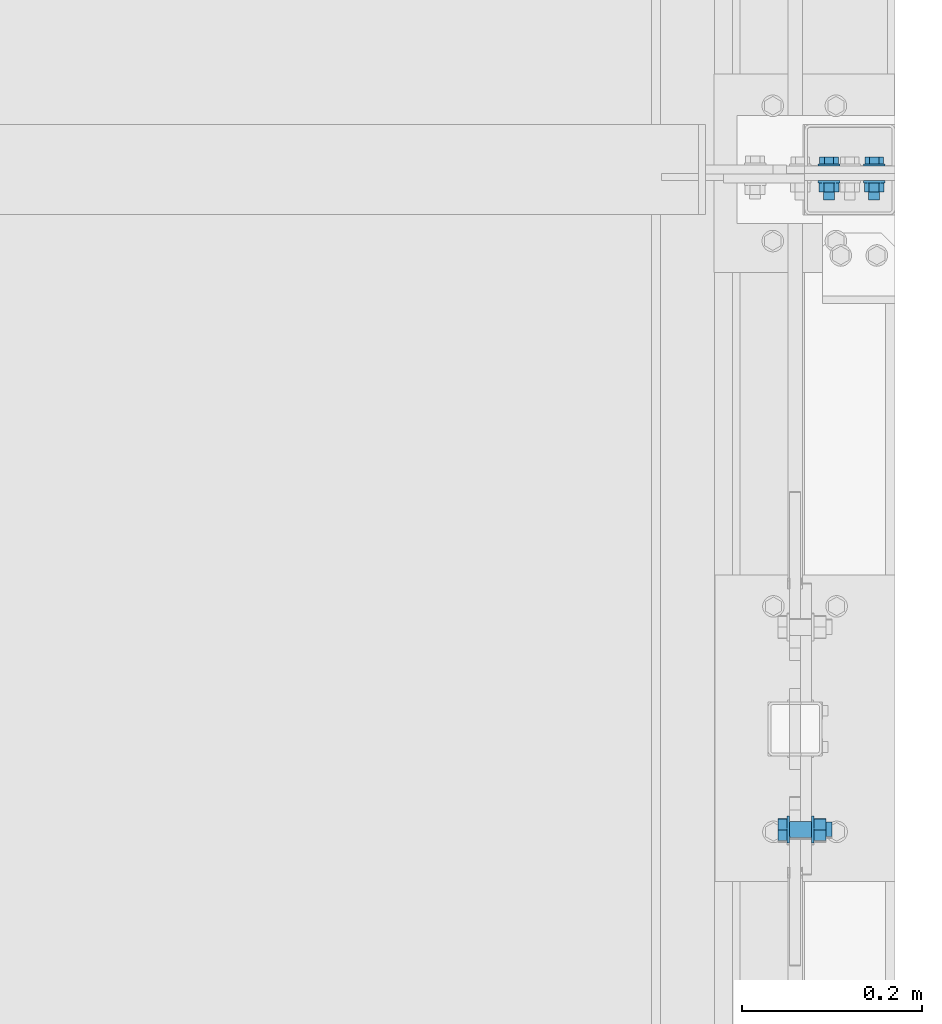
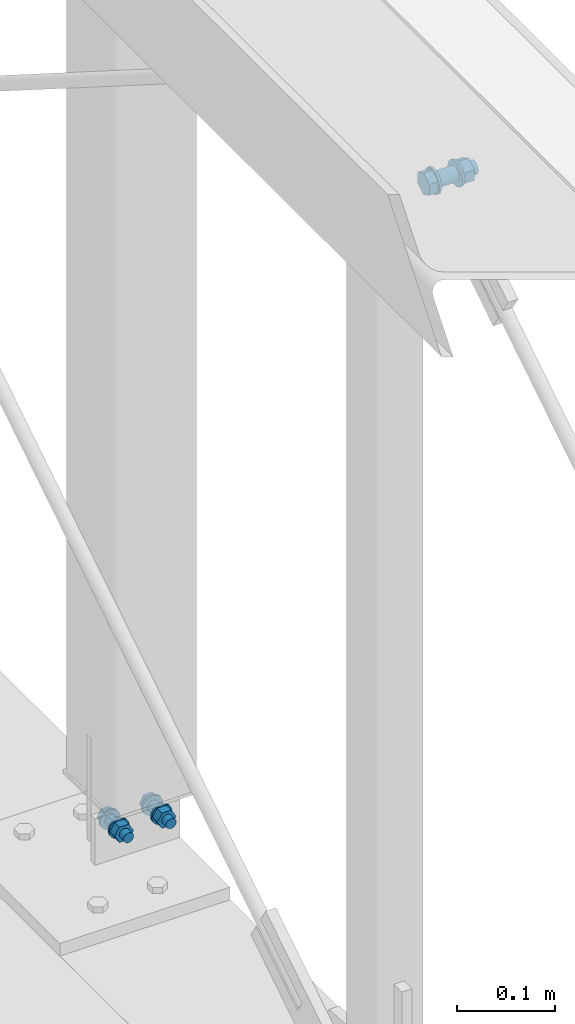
# One storey, part 258 of 271: 2 mechanical fasteners, 2 elements without a shape of their own.
"""IFC2X3 building model written with IfcOpenShell, lengths in millimetres."""

from ifc_helpers import new_model, si_unit, frame, origin_with_axes, origin_2d_with_axis, place, context, subcontext, project, spatial, polyline, circle, outline, extrude, source, transform, mapped, material, type_object, element, aggregate, save


model = new_model("IFC2X3")

# Units and contexts
model_context = context("Model", 3, precision=1e-05, world=origin_with_axes())
body_context = subcontext(model_context, "Body", "Model", "MODEL_VIEW")
ifc_project = project(units=[si_unit("LENGTHUNIT", "METRE", prefix="MILLI"), si_unit("AREAUNIT", "SQUARE_METRE"), si_unit("VOLUMEUNIT", "CUBIC_METRE"), si_unit("MASSUNIT", "GRAM", prefix="KILO"), si_unit("TIMEUNIT", "SECOND"), si_unit("PLANEANGLEUNIT", "RADIAN"), si_unit("SOLIDANGLEUNIT", "STERADIAN"), si_unit("THERMODYNAMICTEMPERATUREUNIT", "DEGREE_CELSIUS"), si_unit("LUMINOUSINTENSITYUNIT", "LUMEN")], contexts=[model_context])

# Site, building, storey
site_placement = place(None, origin_with_axes())
site = spatial("IfcSite", under=ifc_project, at=site_placement, Name="Undefined", CompositionType="ELEMENT")
building_placement = place(site_placement, origin_with_axes())
building = spatial("IfcBuilding", under=site, at=building_placement, Name="Undefined", CompositionType="ELEMENT")
storey_placement = place(building_placement, origin_with_axes())
storey = spatial("IfcBuildingStorey", under=building, at=storey_placement, Name="Undefined", CompositionType="ELEMENT", Elevation=0.0)

# Assembly, mechanical fastener
assembly_1_placement = place(storey_placement, origin_with_axes())
assembly_1 = element("IfcElementAssembly", 1, at=assembly_1_placement, inside=storey, AssemblyPlace="NOTDEFINED", PredefinedType="RIGID_FRAME")
ifc_material = material(Name="Undefined")
mechanical_fastener_type = type_object("IfcMechanicalFastenerType", Name="Bolt assembly")
shared_shape_1 = source(origin_with_axes(), body_context, "Body", "SweptSolid", [
    extrude(circle(Radius=6.5, at=origin_2d_with_axis()), frame((0.0, -0.099864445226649, 0.0), z_axis=(0.0, 1.0, 0.0), x_axis=(1.0, 0.0, 0.0)), (0.0, 0.0, 1.0), 8.1),
    extrude(circle(Radius=6.5, at=origin_2d_with_axis()), frame((0.0, -7.90000000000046, 0.0), z_axis=(0.0, 1.0, 0.0), x_axis=(1.0, 0.0, 0.0)), (0.0, 0.0, 1.0), 8.0),
    extrude(outline(polyline([(10.39230484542, 0.0), (5.19615242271, 9.00000000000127), (-5.19615242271, 9.00000000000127), (-10.39230484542, 0.0), (-5.19615242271, -9.00000000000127), (5.19615242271, -9.00000000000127), (10.39230484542, 0.0)])), frame((0.0, -18.0000000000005, 0.0), z_axis=(0.0, 1.0, 0.0), x_axis=(1.0, 0.0, 0.0)), (0.0, 0.0, 1.0), 7.5),
    extrude(circle(Radius=6.0, at=origin_2d_with_axis()), frame((0.0, -10.5000000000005, 0.0), z_axis=(0.0, 1.0, 0.0), x_axis=(1.0, 0.0, 0.0)), (0.0, 0.0, 1.0), 40.0),
    extrude(circle(Radius=12.0, at=origin_2d_with_axis()), frame((0.0, -10.5000000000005, 0.0), z_axis=(0.0, 1.0, 0.0), x_axis=(1.0, 0.0, 0.0)), (0.0, 0.0, 1.0), 2.5),
    extrude(circle(Radius=12.0, at=origin_2d_with_axis()), frame((0.0, 8.00013555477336, 0.0), z_axis=(0.0, 1.0, 0.0), x_axis=(1.0, 0.0, 0.0)), (0.0, 0.0, 1.0), 2.5),
    extrude(outline(polyline([(10.96965511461, 0.0), (5.484827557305, 9.50000000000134), (-5.484827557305, 9.50000000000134), (-10.96965511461, 0.0), (-5.484827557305, -9.50000000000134), (5.484827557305, -9.50000000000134), (10.96965511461, 0.0)])), frame((0.0, 10.5001355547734, 0.0), z_axis=(0.0, 1.0, 0.0), x_axis=(1.0, 0.0, 0.0)), (0.0, 0.0, 1.0), 10.0),
])
mechanical_fastener_1_placement = place(assembly_1_placement, frame((12635.3756870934, 2795.05225536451, 37.8499999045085), z_axis=(0.0, 0.0, -1.0), x_axis=(1.0, 0.0, 0.0)))
mechanical_fastener_1 = element("IfcMechanicalFastener", 2, at=mechanical_fastener_1_placement, type_object=mechanical_fastener_type, material=ifc_material, Name="Bolt assembly", NominalDiameter=12.0, NominalLength=40.0, context=body_context, shape_type="MappedRepresentation", body=[
    mapped(shared_shape_1, transform((0.0, 0.0, 0.0))),
    mapped(shared_shape_1, transform((50.0, 0.0, 0.0))),
])
aggregate(assembly_1, [mechanical_fastener_1])

assembly_2_placement = place(storey_placement, origin_with_axes())
assembly_2 = element("IfcElementAssembly", 3, at=assembly_2_placement, inside=storey, AssemblyPlace="NOTDEFINED", PredefinedType="RIGID_FRAME")
shared_shape_2 = source(origin_with_axes(), body_context, "Body", "SweptSolid", [
    extrude(circle(Radius=9.0, at=origin_2d_with_axis()), frame((0.0, -6.1, 0.0), z_axis=(0.0, 1.0, 0.0), x_axis=(1.0, 0.0, 0.0)), (0.0, 0.0, 1.0), 12.1),
    extrude(circle(Radius=9.0, at=origin_2d_with_axis()), frame((0.0, -17.9, 0.0), z_axis=(0.0, 1.0, 0.0), x_axis=(1.0, 0.0, 0.0)), (0.0, 0.0, 1.0), 12.0),
    extrude(outline(polyline([(13.85640646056, 0.0), (6.92820323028, 12.0000000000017), (-6.92820323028, 12.0000000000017), (-13.85640646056, 0.0), (-6.92820323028, -12.0000000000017), (6.92820323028, -12.0000000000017), (13.85640646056, 0.0)])), frame((0.0, -31.0, 0.0), z_axis=(0.0, 1.0, 0.0), x_axis=(1.0, 0.0, 0.0)), (0.0, 0.0, 1.0), 10.0),
    extrude(circle(Radius=8.0, at=origin_2d_with_axis()), frame((0.0, -21.0, 0.0), z_axis=(0.0, 1.0, 0.0), x_axis=(1.0, 0.0, 0.0)), (0.0, 0.0, 1.0), 50.0),
    extrude(circle(Radius=15.0, at=origin_2d_with_axis()), frame((0.0, -21.0, 0.0), z_axis=(0.0, 1.0, 0.0), x_axis=(1.0, 0.0, 0.0)), (0.0, 0.0, 1.0), 3.0),
    extrude(circle(Radius=15.0, at=origin_2d_with_axis()), frame((0.0, 6.0, 0.0), z_axis=(0.0, 1.0, 0.0), x_axis=(1.0, 0.0, 0.0)), (0.0, 0.0, 1.0), 3.0),
    extrude(outline(polyline([(13.85640646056, 0.0), (6.92820323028, 12.0000000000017), (-6.92820323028, 12.0000000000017), (-13.85640646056, 0.0), (-6.92820323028, -12.0000000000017), (6.92820323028, -12.0000000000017), (13.85640646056, 0.0)])), frame((0.0, 9.0, 0.0), z_axis=(0.0, 1.0, 0.0), x_axis=(1.0, 0.0, 0.0)), (0.0, 0.0, 1.0), 13.0),
])
mechanical_fastener_2_placement = place(assembly_2_placement, frame((12609.7513748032, 2067.7472222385, 1292.75355377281), z_axis=(0.0, -0.535126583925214, 0.844771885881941), x_axis=(0.0, -0.844771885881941, -0.535126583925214)))
mechanical_fastener_2 = element("IfcMechanicalFastener", 4, at=mechanical_fastener_2_placement, type_object=mechanical_fastener_type, material=ifc_material, Name="Bolt assembly", NominalDiameter=16.0, NominalLength=50.0, context=body_context, shape_type="MappedRepresentation", body=[
    mapped(shared_shape_2, transform((0.0, 0.0, 0.0))),
])
aggregate(assembly_2, [mechanical_fastener_2])

save(model, "model.ifc")
